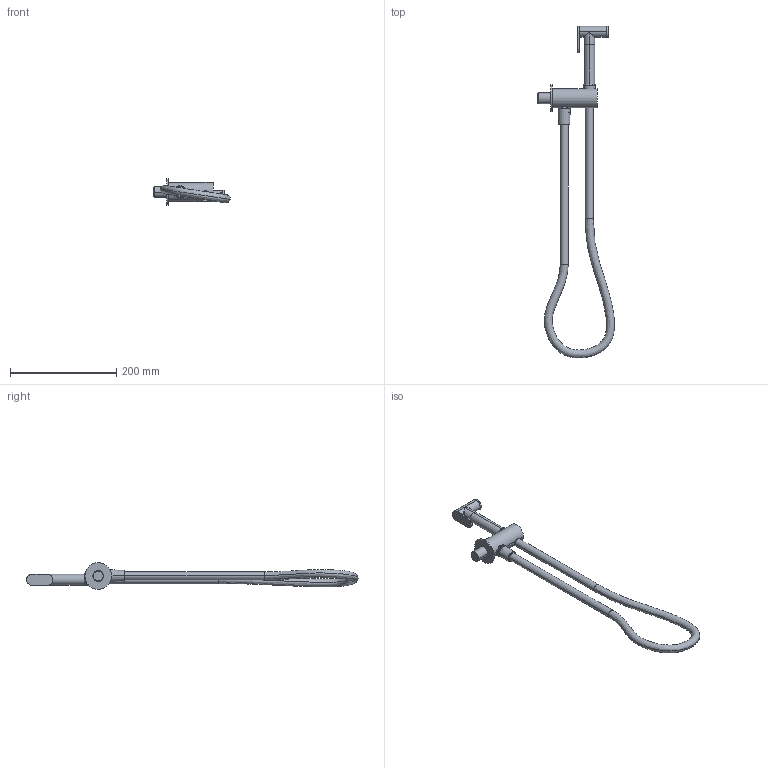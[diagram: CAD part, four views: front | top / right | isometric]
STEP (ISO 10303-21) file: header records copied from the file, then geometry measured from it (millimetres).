
FILE_DESCRIPTION((''),'2;1');
FILE_NAME('12402_ASM','2024-07-09T16:52:27',('carloff'),(''),'CREO PARAMETRIC BY PTC INC, 2022014','CREO PARAMETRIC BY PTC INC, 2022014','');
FILE_SCHEMA(('CONFIG_CONTROL_DESIGN'));
Length unit declared in the file: millimetre
Products named in the file (4): A458000575; A305000155; A488000265; 12402_ASM
Assembly tree (3 placements, depth 2):
  12402_ASM
    A458000575
    A305000155
    A488000265
Bounding box: 144.6 x 623.85 x 50 mm (x, y, z)
Volume: 302913.9 mm3; surface area: 103690.4 mm2
Topology: 3 solids, 3 shells, 207 faces, 448 edges, 283 vertices
Faces by surface type: cylinder 104, plane 49, cone 25, bspline 23, torus 6
Entity records: 10269 total; most frequent: CARTESIAN_POINT 5718, DIRECTION 939, ORIENTED_EDGE 896, EDGE_CURVE 448, AXIS2_PLACEMENT_3D 396, VERTEX_POINT 283, EDGE_LOOP 245, FACE_OUTER_BOUND 207
